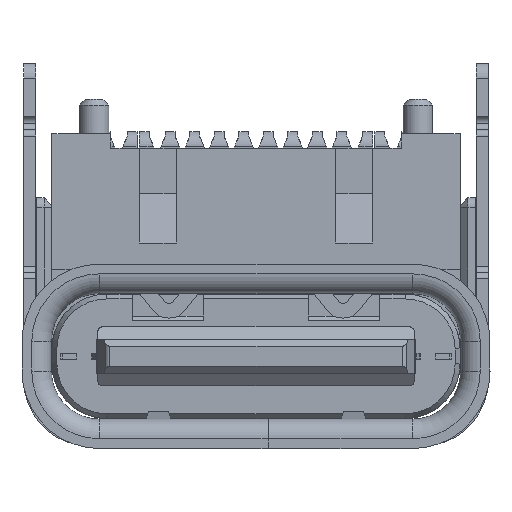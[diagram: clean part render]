
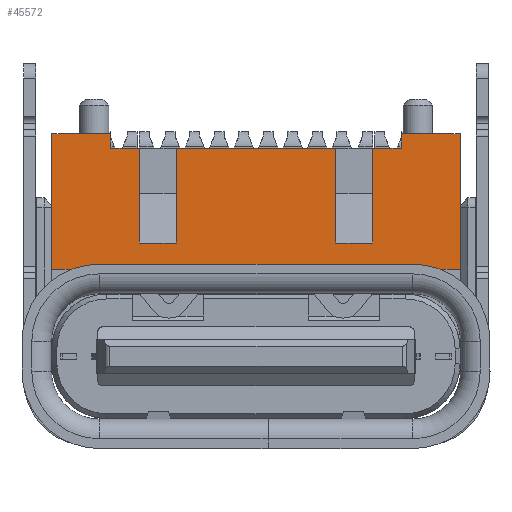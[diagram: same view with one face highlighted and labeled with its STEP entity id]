
A CAD part, front view. The second image highlights one B-rep face of the part: STEP entity #45572.
In plain terms, the highlighted planar face has unit normal (0, -1, 0).
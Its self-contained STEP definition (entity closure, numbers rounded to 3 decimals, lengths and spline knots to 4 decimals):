
#10270=DIRECTION('',(0.,0.,-1.));
#10271=VECTOR('',#10270,2.77);
#10272=CARTESIAN_POINT('',(-3.8098,1.201,
21.0618));
#10273=LINE('',#10272,#10271);
#10306=DIRECTION('',(-1.,0.,0.));
#10307=VECTOR('',#10306,1.2);
#10308=CARTESIAN_POINT('',(-2.6098,1.201,
21.0618));
#10309=LINE('',#10308,#10307);
#12280=DIRECTION('',(1.,0.,0.));
#12281=VECTOR('',#12280,3.25);
#12282=CARTESIAN_POINT('',(-1.2748,1.201,
20.7618));
#12283=LINE('',#12282,#12281);
#12284=DIRECTION('',(0.,0.,-1.));
#12285=VECTOR('',#12284,1.93);
#12286=CARTESIAN_POINT('',(1.9752,1.201,20.7618));
#12287=LINE('',#12286,#12285);
#12288=DIRECTION('',(1.,0.,0.));
#12289=VECTOR('',#12288,0.585);
#12290=CARTESIAN_POINT('',(2.7252,1.201,20.7618));
#12291=LINE('',#12290,#12289);
#12292=DIRECTION('',(0.,0.,1.));
#12293=VECTOR('',#12292,0.3);
#12294=CARTESIAN_POINT('',(3.3102,1.201,20.7618));
#12295=LINE('',#12294,#12293);
#12296=DIRECTION('',(1.,0.,0.));
#12297=VECTOR('',#12296,1.2);
#12298=CARTESIAN_POINT('',(3.3102,1.201,21.0618));
#12299=LINE('',#12298,#12297);
#12300=DIRECTION('',(0.,0.,-1.));
#12301=VECTOR('',#12300,2.77);
#12302=CARTESIAN_POINT('',(4.5102,1.201,21.0618));
#12303=LINE('',#12302,#12301);
#12304=DIRECTION('',(-1.,0.,0.));
#12305=VECTOR('',#12304,1.12);
#12306=CARTESIAN_POINT('',(4.5102,1.201,18.2918));
#12307=LINE('',#12306,#12305);
#12308=DIRECTION('',(0.,0.,-1.));
#12309=VECTOR('',#12308,0.5);
#12310=CARTESIAN_POINT('',(3.3902,1.201,18.2918));
#12311=LINE('',#12310,#12309);
#12312=DIRECTION('',(-1.,0.,0.));
#12313=VECTOR('',#12312,6.08);
#12314=CARTESIAN_POINT('',(3.3902,1.201,17.7918));
#12315=LINE('',#12314,#12313);
#12316=DIRECTION('',(0.,0.,1.));
#12317=VECTOR('',#12316,0.5);
#12318=CARTESIAN_POINT('',(-2.6898,1.201,
17.7918));
#12319=LINE('',#12318,#12317);
#12320=DIRECTION('',(-1.,0.,0.));
#12321=VECTOR('',#12320,1.12);
#12322=CARTESIAN_POINT('',(-2.6898,1.201,
18.2918));
#12323=LINE('',#12322,#12321);
#12324=DIRECTION('',(0.,0.,-1.));
#12325=VECTOR('',#12324,0.3);
#12326=CARTESIAN_POINT('',(-2.6098,1.201,
21.0618));
#12327=LINE('',#12326,#12325);
#12328=DIRECTION('',(1.,0.,0.));
#12329=VECTOR('',#12328,0.585);
#12330=CARTESIAN_POINT('',(-2.6098,1.201,
20.7618));
#12331=LINE('',#12330,#12329);
#12332=DIRECTION('',(0.,0.,-1.));
#12333=VECTOR('',#12332,1.93);
#12334=CARTESIAN_POINT('',(-2.0248,1.201,
20.7618));
#12335=LINE('',#12334,#12333);
#12336=DIRECTION('',(-1.,0.,0.));
#12337=VECTOR('',#12336,0.75);
#12338=CARTESIAN_POINT('',(-1.2748,1.201,
18.8318));
#12339=LINE('',#12338,#12337);
#12368=DIRECTION('',(0.,0.,-1.));
#12369=VECTOR('',#12368,1.93);
#12370=CARTESIAN_POINT('',(-1.2748,1.201,
20.7618));
#12371=LINE('',#12370,#12369);
#12384=DIRECTION('',(-1.,0.,0.));
#12385=VECTOR('',#12384,0.75);
#12386=CARTESIAN_POINT('',(2.7252,1.201,18.8318));
#12387=LINE('',#12386,#12385);
#12404=DIRECTION('',(0.,0.,-1.));
#12405=VECTOR('',#12404,1.93);
#12406=CARTESIAN_POINT('',(2.7252,1.201,20.7618));
#12407=LINE('',#12406,#12405);
#26683=CARTESIAN_POINT('',(3.3902,1.201,17.7918));
#26684=VERTEX_POINT('',#26683);
#26685=CARTESIAN_POINT('',(3.3902,1.201,18.2918));
#26686=VERTEX_POINT('',#26685);
#26736=CARTESIAN_POINT('',(4.5102,1.201,18.2918));
#26737=VERTEX_POINT('',#26736);
#26738=CARTESIAN_POINT('',(4.5102,1.201,21.0618));
#26739=VERTEX_POINT('',#26738);
#28223=CARTESIAN_POINT('',(-1.2748,1.201,
18.8318));
#28224=CARTESIAN_POINT('',(-2.0248,1.201,
18.8318));
#28225=VERTEX_POINT('',#28223);
#28226=VERTEX_POINT('',#28224);
#28227=CARTESIAN_POINT('',(-1.2748,1.201,
20.7618));
#28228=VERTEX_POINT('',#28227);
#28229=CARTESIAN_POINT('',(1.9752,1.201,20.7618));
#28230=VERTEX_POINT('',#28229);
#28231=CARTESIAN_POINT('',(1.9752,1.201,18.8318));
#28232=VERTEX_POINT('',#28231);
#28233=CARTESIAN_POINT('',(2.7252,1.201,18.8318));
#28234=VERTEX_POINT('',#28233);
#28235=CARTESIAN_POINT('',(2.7252,1.201,20.7618));
#28236=VERTEX_POINT('',#28235);
#28237=CARTESIAN_POINT('',(3.3102,1.201,20.7618));
#28238=VERTEX_POINT('',#28237);
#28239=CARTESIAN_POINT('',(3.3102,1.201,21.0618));
#28240=VERTEX_POINT('',#28239);
#28241=CARTESIAN_POINT('',(-2.6898,1.201,
17.7918));
#28242=VERTEX_POINT('',#28241);
#28243=CARTESIAN_POINT('',(-2.6898,1.201,
18.2918));
#28244=VERTEX_POINT('',#28243);
#28245=CARTESIAN_POINT('',(-3.8098,1.201,
18.2918));
#28246=VERTEX_POINT('',#28245);
#28247=CARTESIAN_POINT('',(-3.8098,1.201,
21.0618));
#28248=VERTEX_POINT('',#28247);
#28249=CARTESIAN_POINT('',(-2.6098,1.201,
21.0618));
#28250=VERTEX_POINT('',#28249);
#28251=CARTESIAN_POINT('',(-2.6098,1.201,
20.7618));
#28252=VERTEX_POINT('',#28251);
#28253=CARTESIAN_POINT('',(-2.0248,1.201,
20.7618));
#28254=VERTEX_POINT('',#28253);
#45533=CARTESIAN_POINT('',(0.3502,1.201,
19.1018));
#45534=DIRECTION('',(0.,-1.,0.));
#45535=DIRECTION('',(0.,0.,1.));
#45536=AXIS2_PLACEMENT_3D('',#45533,#45534,#45535);
#45537=PLANE('',#45536);
#45539=ORIENTED_EDGE('',*,*,#45538,.F.);
#45541=ORIENTED_EDGE('',*,*,#45540,.F.);
#45542=ORIENTED_EDGE('',*,*,#42998,.T.);
#45544=ORIENTED_EDGE('',*,*,#45543,.T.);
#45546=ORIENTED_EDGE('',*,*,#45545,.F.);
#45548=ORIENTED_EDGE('',*,*,#45547,.F.);
#45549=ORIENTED_EDGE('',*,*,#42990,.T.);
#45551=ORIENTED_EDGE('',*,*,#45550,.T.);
#45552=ORIENTED_EDGE('',*,*,#45517,.T.);
#45553=ORIENTED_EDGE('',*,*,#38894,.T.);
#45555=ORIENTED_EDGE('',*,*,#45554,.T.);
#45556=ORIENTED_EDGE('',*,*,#38726,.T.);
#45558=ORIENTED_EDGE('',*,*,#45557,.T.);
#45560=ORIENTED_EDGE('',*,*,#45559,.T.);
#45562=ORIENTED_EDGE('',*,*,#45561,.T.);
#45563=ORIENTED_EDGE('',*,*,#42811,.F.);
#45564=ORIENTED_EDGE('',*,*,#42840,.F.);
#45566=ORIENTED_EDGE('',*,*,#45565,.T.);
#45567=ORIENTED_EDGE('',*,*,#43006,.T.);
#45569=ORIENTED_EDGE('',*,*,#45568,.T.);
#45570=EDGE_LOOP('',(#45539,#45541,#45542,#45544,#45546,#45548,#45549,#45551,
#45552,#45553,#45555,#45556,#45558,#45560,#45562,#45563,#45564,#45566,#45567,
#45569));
#45571=FACE_OUTER_BOUND('',#45570,.F.);
#38726=EDGE_CURVE('',#26686,#26684,#12311,.T.);
#38894=EDGE_CURVE('',#26739,#26737,#12303,.T.);
#42811=EDGE_CURVE('',#28248,#28246,#10273,.T.);
#42840=EDGE_CURVE('',#28250,#28248,#10309,.T.);
#42990=EDGE_CURVE('',#28236,#28238,#12291,.T.);
#42998=EDGE_CURVE('',#28228,#28230,#12283,.T.);
#43006=EDGE_CURVE('',#28252,#28254,#12331,.T.);
#45517=EDGE_CURVE('',#28240,#26739,#12299,.T.);
#45538=EDGE_CURVE('',#28225,#28226,#12339,.T.);
#45540=EDGE_CURVE('',#28228,#28225,#12371,.T.);
#45543=EDGE_CURVE('',#28230,#28232,#12287,.T.);
#45545=EDGE_CURVE('',#28234,#28232,#12387,.T.);
#45547=EDGE_CURVE('',#28236,#28234,#12407,.T.);
#45550=EDGE_CURVE('',#28238,#28240,#12295,.T.);
#45554=EDGE_CURVE('',#26737,#26686,#12307,.T.);
#45557=EDGE_CURVE('',#26684,#28242,#12315,.T.);
#45559=EDGE_CURVE('',#28242,#28244,#12319,.T.);
#45561=EDGE_CURVE('',#28244,#28246,#12323,.T.);
#45565=EDGE_CURVE('',#28250,#28252,#12327,.T.);
#45568=EDGE_CURVE('',#28254,#28226,#12335,.T.);
#45572=ADVANCED_FACE('',(#45571),#45537,.T.);
